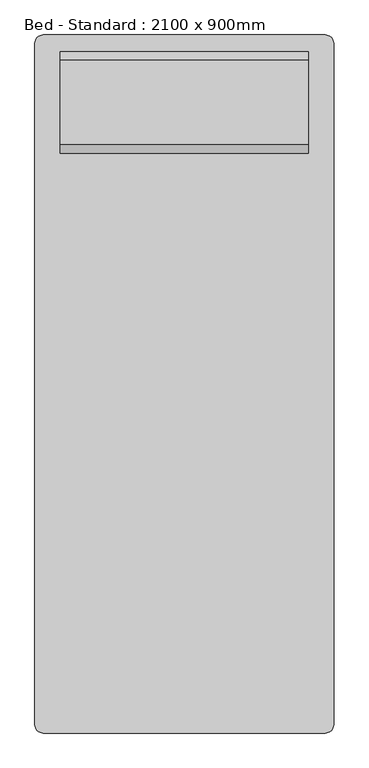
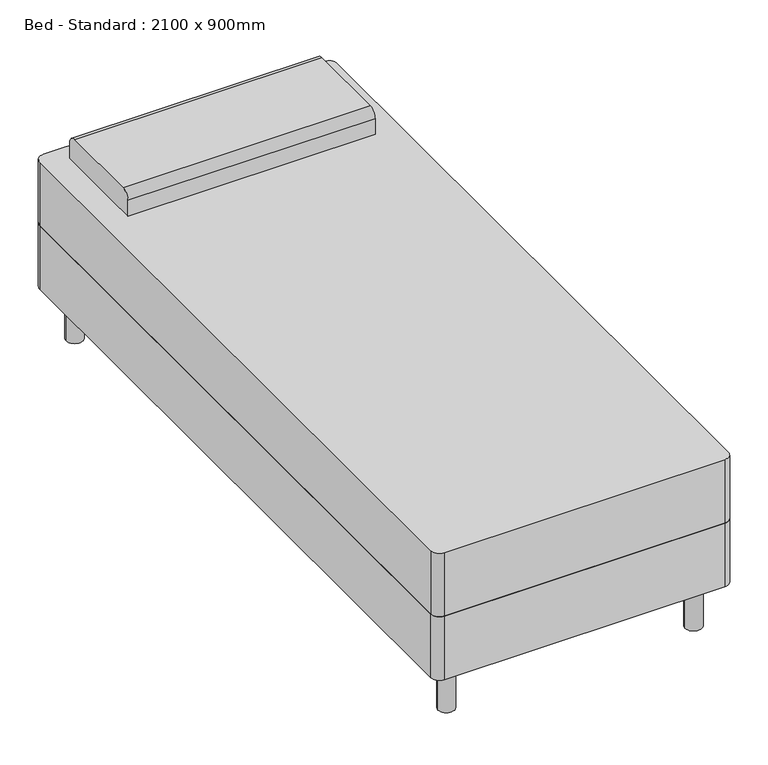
"""IFC4 building model written with IfcOpenShell, lengths in millimetres: furniture geometry, Bed - Standard : 2100 x 900mm."""

from ifc_helpers import new_model, si_unit, point, frame, frame_2d, origin, origin_with_axes, place, context, project, spatial, polyline, circle_curve, trimmed, segment, composite_curve, outline, extrude, source, transform, mapped, element, save


def bed_standard_2100_x_900mm_af0b1266(model_context):
    return source(origin(), model_context, "Body", "SweptSolid", [
        extrude(outline(composite_curve([segment(polyline([(-178.5114754, -1070.195082), (-178.5114754, 979.004918)]), True, "CONTINUOUS"), segment(trimmed(circle_curve(frame_2d((-153.1114754, 979.004918)), 25.4), [point((-178.5114754, 979.004918))], [point((-153.1114754, 1004.404918))], False, "CARTESIAN"), True, "CONTINUOUS"), segment(polyline([(-153.1114754, 1004.404918), (696.0885246, 1004.404918)]), True, "CONTINUOUS"), segment(trimmed(circle_curve(frame_2d((696.0885246, 979.004918)), 25.4), [point((696.0885246, 1004.404918))], [point((721.4885246, 979.004918))], False, "CARTESIAN"), True, "CONTINUOUS"), segment(polyline([(721.4885246, 979.004918), (721.4885246, -1070.195082)]), True, "CONTINUOUS"), segment(trimmed(circle_curve(frame_2d((696.0885246, -1070.195082)), 25.4), [point((721.4885246, -1070.195082))], [point((696.0885246, -1095.595082))], False, "CARTESIAN"), True, "CONTINUOUS"), segment(polyline([(696.0885246, -1095.595082), (-153.1114754, -1095.595082)]), True, "CONTINUOUS"), segment(trimmed(circle_curve(frame_2d((-153.1114754, -1070.195082)), 25.4), [point((-153.1114754, -1095.595082))], [point((-178.5114754, -1070.195082))], False, "CARTESIAN"), True, "CONTINUOUS")], self_intersect=False)), frame((0.0, 0.0, 152.4), z_axis=(0.0, 0.0, 1.0), x_axis=(1.0, 0.0, 0.0)), (0.0, 0.0, 1.0), 203.2),
        extrude(outline(composite_curve([segment(polyline([(648.804918, 558.8), (648.804918, 609.6)]), True, "CONTINUOUS"), segment(trimmed(circle_curve(frame_2d((674.204918, 609.6)), 25.4), [point((648.804918, 609.6))], [point((674.204918, 635.0))], False, "CARTESIAN"), True, "CONTINUOUS"), segment(polyline([(674.204918, 635.0), (928.204918, 635.0)]), True, "CONTINUOUS"), segment(trimmed(circle_curve(frame_2d((928.204918, 609.6)), 25.4), [point((928.204918, 635.0))], [point((953.604918, 609.6))], False, "CARTESIAN"), True, "CONTINUOUS"), segment(polyline([(953.604918, 609.6), (953.604918, 558.8), (648.804918, 558.8)]), True, "CONTINUOUS")], self_intersect=False)), frame((-102.3114754, 0.0, 0.0), z_axis=(1.0, 0.0, 0.0), x_axis=(0.0, 1.0, 0.0)), (0.0, 0.0, 1.0), 747.6),
        extrude(outline(composite_curve([segment(trimmed(circle_curve(frame_2d((-102.3114754, 928.204918)), 25.4), [point((-127.7114754, 928.204918))], [point((-76.9114754, 928.204918))], False, "CARTESIAN"), True, "CONTINUOUS"), segment(trimmed(circle_curve(frame_2d((-102.3114754, 928.204918)), 25.4), [point((-76.9114754, 928.204918))], [point((-127.7114754, 928.204918))], False, "CARTESIAN"), True, "CONTINUOUS")], self_intersect=False)), origin_with_axes(), (0.0, 0.0, 1.0), 152.4),
        extrude(outline(composite_curve([segment(trimmed(circle_curve(frame_2d((645.2885246, 928.204918)), 25.4), [point((619.8885246, 928.204918))], [point((670.6885246, 928.204918))], False, "CARTESIAN"), True, "CONTINUOUS"), segment(trimmed(circle_curve(frame_2d((645.2885246, 928.204918)), 25.4), [point((670.6885246, 928.204918))], [point((619.8885246, 928.204918))], False, "CARTESIAN"), True, "CONTINUOUS")], self_intersect=False)), origin_with_axes(), (0.0, 0.0, 1.0), 152.4),
        extrude(outline(composite_curve([segment(trimmed(circle_curve(frame_2d((645.2885246, -1019.395082)), 25.4), [point((619.8885246, -1019.395082))], [point((670.6885246, -1019.395082))], False, "CARTESIAN"), True, "CONTINUOUS"), segment(trimmed(circle_curve(frame_2d((645.2885246, -1019.395082)), 25.4), [point((670.6885246, -1019.395082))], [point((619.8885246, -1019.395082))], False, "CARTESIAN"), True, "CONTINUOUS")], self_intersect=False)), origin_with_axes(), (0.0, 0.0, 1.0), 152.4),
        extrude(outline(composite_curve([segment(trimmed(circle_curve(frame_2d((-102.3114754, -1019.395082)), 25.4), [point((-127.7114754, -1019.395082))], [point((-76.9114754, -1019.395082))], False, "CARTESIAN"), True, "CONTINUOUS"), segment(trimmed(circle_curve(frame_2d((-102.3114754, -1019.395082)), 25.4), [point((-76.9114754, -1019.395082))], [point((-127.7114754, -1019.395082))], False, "CARTESIAN"), True, "CONTINUOUS")], self_intersect=False)), origin_with_axes(), (0.0, 0.0, 1.0), 152.4),
        extrude(outline(composite_curve([segment(polyline([(-153.1114754, 1004.404918), (696.0885246, 1004.404918)]), True, "CONTINUOUS"), segment(trimmed(circle_curve(frame_2d((696.0885246, 979.004918)), 25.4), [point((696.0885246, 1004.404918))], [point((721.4885246, 979.004918))], False, "CARTESIAN"), True, "CONTINUOUS"), segment(polyline([(721.4885246, 979.004918), (721.4885246, -1070.195082)]), True, "CONTINUOUS"), segment(trimmed(circle_curve(frame_2d((696.0885246, -1070.195082)), 25.4), [point((721.4885246, -1070.195082))], [point((696.0885246, -1095.595082))], False, "CARTESIAN"), True, "CONTINUOUS"), segment(polyline([(696.0885246, -1095.595082), (-153.1114754, -1095.595082)]), True, "CONTINUOUS"), segment(trimmed(circle_curve(frame_2d((-153.1114754, -1070.195082)), 25.4), [point((-153.1114754, -1095.595082))], [point((-178.5114754, -1070.195082))], False, "CARTESIAN"), True, "CONTINUOUS"), segment(polyline([(-178.5114754, -1070.195082), (-178.5114754, 979.004918)]), True, "CONTINUOUS"), segment(trimmed(circle_curve(frame_2d((-153.1114754, 979.004918)), 25.4), [point((-178.5114754, 979.004918))], [point((-153.1114754, 1004.404918))], False, "CARTESIAN"), True, "CONTINUOUS")], self_intersect=False)), frame((0.0, 0.0, 355.6), z_axis=(0.0, 0.0, 1.0), x_axis=(1.0, 0.0, 0.0)), (0.0, 0.0, 1.0), 203.2),
    ])


if __name__ == "__main__":
    model = new_model("IFC4")
    model_context = context("Model", 3, world=origin())
    ifc_project = project(units=[si_unit("LENGTHUNIT", "METRE", prefix="MILLI")], contexts=[model_context])
    site = spatial("IfcSite", under=ifc_project)
    building = spatial("IfcBuilding", under=site)
    placement = place(None, origin())
    bed_standard_2100_x_900mm_shape = bed_standard_2100_x_900mm_af0b1266(model_context)
    element("IfcFurniture", 1, ObjectType="Bed - Standard : 2100 x 900mm", at=placement, inside=building, context=model_context, shape_type="MappedRepresentation", body=[
        mapped(bed_standard_2100_x_900mm_shape, transform((0.0, 0.0, 0.0), x_axis=(1.0, 0.0, 0.0), y_axis=(0.0, 1.0, 0.0), z_axis=(0.0, 0.0, 1.0))),
    ])
    save(model, "model.ifc")
